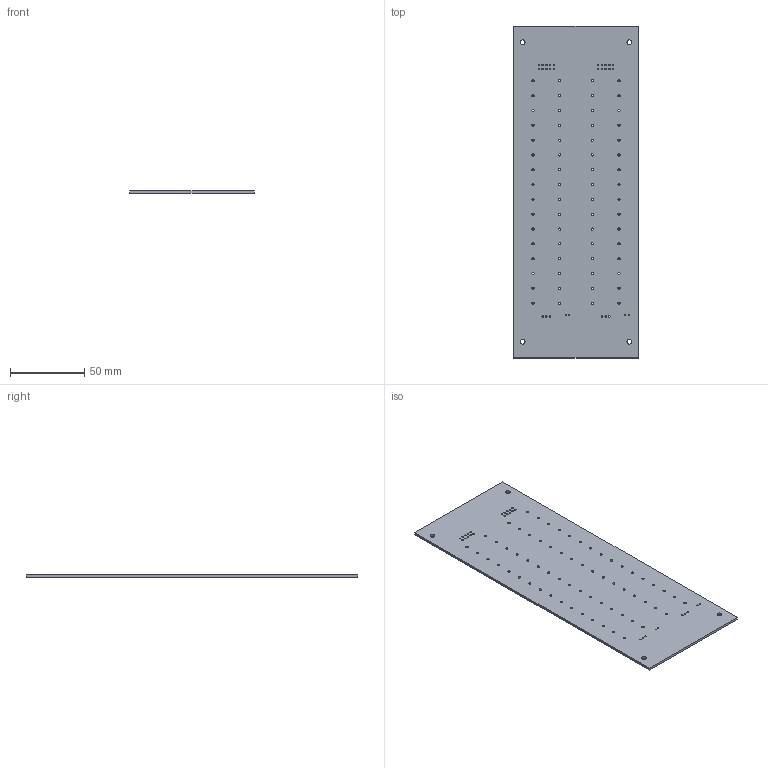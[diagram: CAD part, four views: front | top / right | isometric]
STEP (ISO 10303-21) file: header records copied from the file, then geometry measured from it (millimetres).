
FILE_DESCRIPTION(('Open CASCADE Model'),'2;1');
FILE_NAME('Open CASCADE Shape Model','2026-10-06T14:39:52',('Author'),( 'Open CASCADE'),'Open CASCADE STEP processor 7.9','Open CASCADE 7.9' ,'Unknown');
FILE_SCHEMA(('AUTOMOTIVE_DESIGN { 1 0 10303 214 1 1 1 1 }'));
Length unit declared in the file: millimetre
Products named in the file (1): Open CASCADE STEP translator 7.9 1
Bounding box: 84 x 224 x 1.6 mm (x, y, z)
Volume: 29837.3 mm3; surface area: 38975.9 mm2
Topology: 1 solids, 1 shells, 104 faces, 306 edges, 204 vertices
Faces by surface type: cylinder 98, plane 6
Full cylindrical faces by diameter (mm): 0.8 x4, 1 x26, 1.5 x64, 3.2 x4
Entity records: 8554 total; most frequent: CARTESIAN_POINT 2403, DIRECTION 1128, ORIENTED_EDGE 612, PCURVE 612, DEFINITIONAL_REPRESENTATION 612, LINE 526, VECTOR 526, EDGE_CURVE 306
